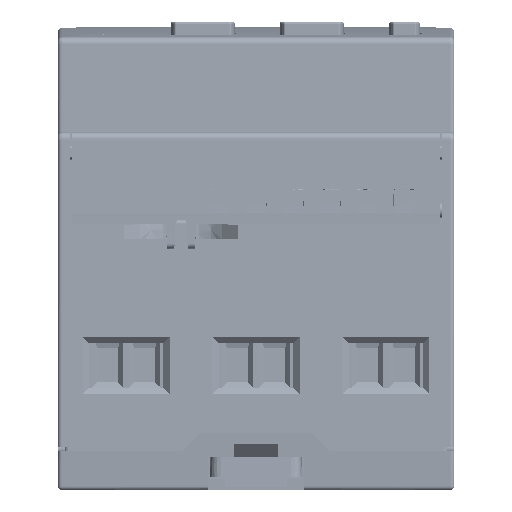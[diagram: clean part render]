
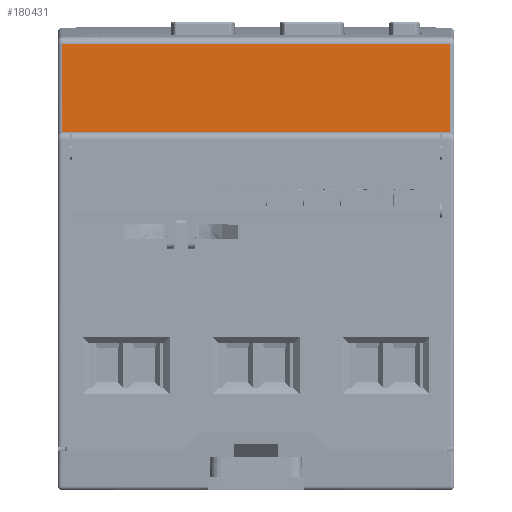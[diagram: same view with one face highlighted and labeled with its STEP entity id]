
A CAD part, front view. The second image highlights one B-rep face of the part: STEP entity #180431.
In plain terms, the highlighted planar face has unit normal (0, -1, 0.026).
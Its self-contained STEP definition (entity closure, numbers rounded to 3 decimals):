
#6574=PLANE('',#191176);
#15791=LINE('',#261449,#34248);
#15792=LINE('',#261451,#34249);
#15793=LINE('',#261453,#34250);
#15794=LINE('',#261455,#34251);
#15795=LINE('',#261457,#34252);
#15796=LINE('',#261458,#34253);
#34248=VECTOR('',#212867,10.);
#34249=VECTOR('',#212868,10.);
#34250=VECTOR('',#212869,10.);
#34251=VECTOR('',#212870,10.);
#34252=VECTOR('',#212871,10.);
#34253=VECTOR('',#212872,10.);
#52803=FACE_OUTER_BOUND('',#62300,.T.);
#62300=EDGE_LOOP('',(#130047,#130048,#130049,#130050,#130051,#130052));
#78660=VERTEX_POINT('',#261447);
#78661=VERTEX_POINT('',#261448);
#78662=VERTEX_POINT('',#261450);
#78663=VERTEX_POINT('',#261452);
#78664=VERTEX_POINT('',#261454);
#78665=VERTEX_POINT('',#261456);
#98198=EDGE_CURVE('',#78660,#78661,#15791,.T.);
#98199=EDGE_CURVE('',#78662,#78660,#15792,.T.);
#98200=EDGE_CURVE('',#78663,#78662,#15793,.T.);
#98201=EDGE_CURVE('',#78664,#78663,#15794,.T.);
#98202=EDGE_CURVE('',#78665,#78664,#15795,.T.);
#98203=EDGE_CURVE('',#78661,#78665,#15796,.T.);
#130047=ORIENTED_EDGE('',*,*,#98198,.F.);
#130048=ORIENTED_EDGE('',*,*,#98199,.F.);
#130049=ORIENTED_EDGE('',*,*,#98200,.F.);
#130050=ORIENTED_EDGE('',*,*,#98201,.F.);
#130051=ORIENTED_EDGE('',*,*,#98202,.F.);
#130052=ORIENTED_EDGE('',*,*,#98203,.F.);
#180431=ADVANCED_FACE('',(#52803),#6574,.T.);
#191176=AXIS2_PLACEMENT_3D('',#261446,#212865,#212866);
#212865=DIRECTION('center_axis',(0.,-1.,0.026));
#212866=DIRECTION('ref_axis',(1.,0.,0.));
#212867=DIRECTION('',(-1.,0.,0.));
#212868=DIRECTION('',(-1.,0.,0.));
#212869=DIRECTION('',(0.,-0.026,-1.));
#212870=DIRECTION('',(1.,0.,0.));
#212871=DIRECTION('',(0.,0.026,1.));
#212872=DIRECTION('',(-1.,0.,0.));
#261446=CARTESIAN_POINT('Origin',(26.201,-22.242,31.139));
#261447=CARTESIAN_POINT('',(25.,-22.397,25.2));
#261448=CARTESIAN_POINT('',(-25.,-22.397,25.2));
#261449=CARTESIAN_POINT('',(0.,-22.397,25.2));
#261450=CARTESIAN_POINT('',(26.2,-22.397,25.2));
#261451=CARTESIAN_POINT('',(-0.255,-22.397,25.2));
#261452=CARTESIAN_POINT('',(26.2,-22.086,37.077));
#261453=CARTESIAN_POINT('',(26.2,-22.086,37.077));
#261454=CARTESIAN_POINT('',(-26.2,-22.086,37.077));
#261455=CARTESIAN_POINT('',(-26.2,-22.086,37.077));
#261456=CARTESIAN_POINT('',(-26.2,-22.397,25.2));
#261457=CARTESIAN_POINT('',(-26.2,-22.397,25.2));
#261458=CARTESIAN_POINT('',(-0.255,-22.397,25.2));
